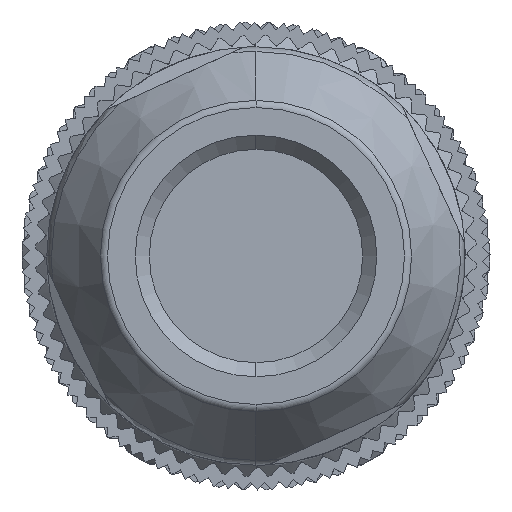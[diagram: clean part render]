
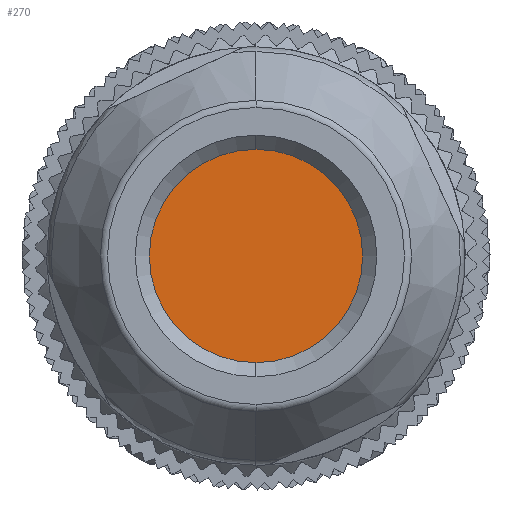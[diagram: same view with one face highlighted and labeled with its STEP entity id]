
A CAD part, left-side view. The second image highlights one B-rep face of the part: STEP entity #270.
In plain terms, the highlighted planar face has unit normal (-1, 0, 0).
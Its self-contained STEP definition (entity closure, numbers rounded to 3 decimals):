
#270 = ADVANCED_FACE ( 'NONE', ( #13683 ), #9055, .F. ) ;
#1332 = ORIENTED_EDGE ( 'NONE', *, *, #29258, .T. ) ;
#4267 = AXIS2_PLACEMENT_3D ( 'NONE', #29158, #28732, #4959 ) ;
#4959 = DIRECTION ( 'NONE',  ( 0., 0., -1. ) ) ;
#8329 = VERTEX_POINT ( 'NONE', #16771 ) ;
#9055 = PLANE ( 'NONE',  #59082 ) ;
#13683 = FACE_OUTER_BOUND ( 'NONE', #27446, .T. ) ;
#14661 = ORIENTED_EDGE ( 'NONE', *, *, #46272, .T. ) ;
#16190 = CIRCLE ( 'NONE', #4267, 7.38 ) ;
#16771 = CARTESIAN_POINT ( 'NONE',  ( -29.4, 0., 7.38 ) ) ;
#17985 = AXIS2_PLACEMENT_3D ( 'NONE', #28314, #18519, #51980 ) ;
#18519 = DIRECTION ( 'NONE',  ( -1., 0., 0. ) ) ;
#18923 = VERTEX_POINT ( 'NONE', #38034 ) ;
#27446 = EDGE_LOOP ( 'NONE', ( #1332, #14661 ) ) ;
#28314 = CARTESIAN_POINT ( 'NONE',  ( -29.4, 0., 0. ) ) ;
#28732 = DIRECTION ( 'NONE',  ( -1., 0., 0. ) ) ;
#29158 = CARTESIAN_POINT ( 'NONE',  ( -29.4, 0., 0. ) ) ;
#29258 = EDGE_CURVE ( 'NONE', #18923, #8329, #16190, .T. ) ;
#38034 = CARTESIAN_POINT ( 'NONE',  ( -29.4, 0., -7.38 ) ) ;
#42256 = CARTESIAN_POINT ( 'NONE',  ( -29.4, 0., -0.001 ) ) ;
#46272 = EDGE_CURVE ( 'NONE', #8329, #18923, #55186, .T. ) ;
#46629 = DIRECTION ( 'NONE',  ( 1., 0., 0. ) ) ;
#46849 = DIRECTION ( 'NONE',  ( 0., 0., -1. ) ) ;
#51980 = DIRECTION ( 'NONE',  ( 0., 0., -1. ) ) ;
#55186 = CIRCLE ( 'NONE', #17985, 7.38 ) ;
#59082 = AXIS2_PLACEMENT_3D ( 'NONE', #42256, #46629, #46849 ) ;
